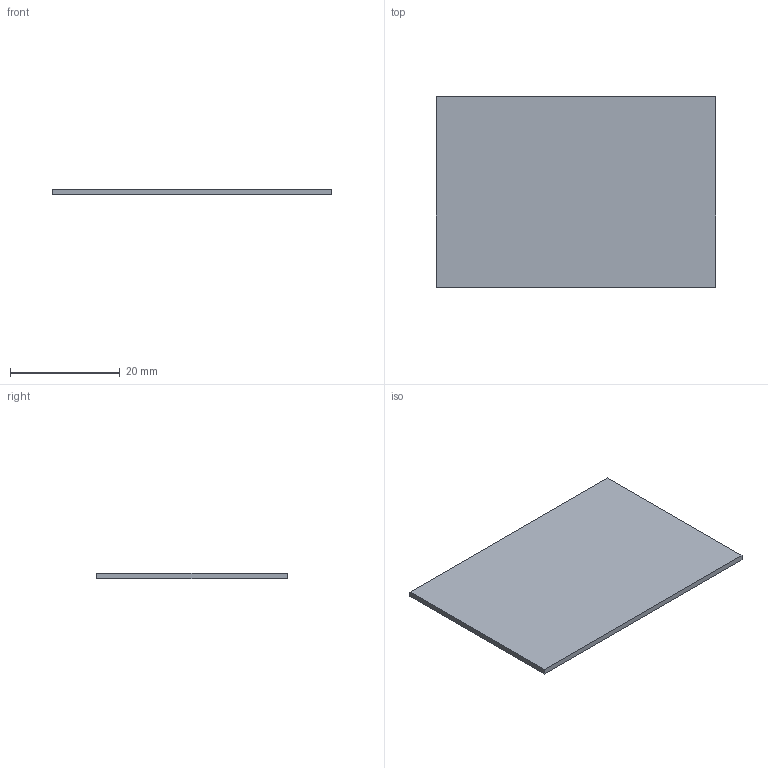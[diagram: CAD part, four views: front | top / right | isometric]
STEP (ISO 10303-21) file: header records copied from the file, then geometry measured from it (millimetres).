
FILE_DESCRIPTION(('Open CASCADE Model'),'2;1');
FILE_NAME('Open CASCADE Shape Model','2023-08-16T10:08:49',('Author'),( 'Open CASCADE'),'Open CASCADE STEP processor 7.7','Open CASCADE 7.7' ,'Unknown');
FILE_SCHEMA(('AUTOMOTIVE_DESIGN { 1 0 10303 214 1 1 1 1 }'));
Length unit declared in the file: millimetre
Products named in the file (1): Open CASCADE STEP translator 7.7 6
Bounding box: 51 x 34.68 x 1 mm (x, y, z)
Volume: 1768.6 mm3; surface area: 3708.6 mm2
Topology: 1 solids, 1 shells, 6 faces, 12 edges, 8 vertices
Faces by surface type: plane 6
Entity records: 322 total; most frequent: CARTESIAN_POINT 51, DIRECTION 50, LINE 36, VECTOR 36, ORIENTED_EDGE 24, PCURVE 24, DEFINITIONAL_REPRESENTATION 24, EDGE_CURVE 12
